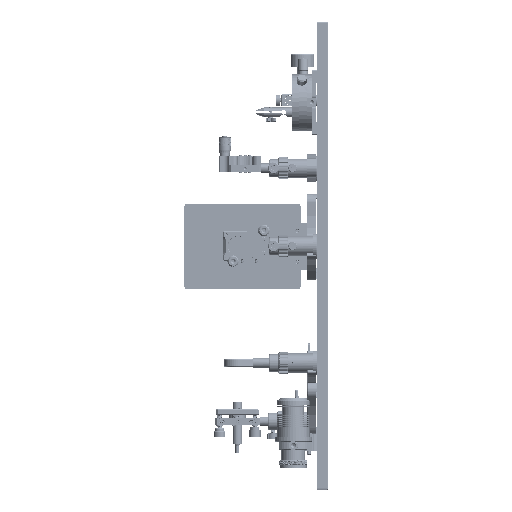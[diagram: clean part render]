
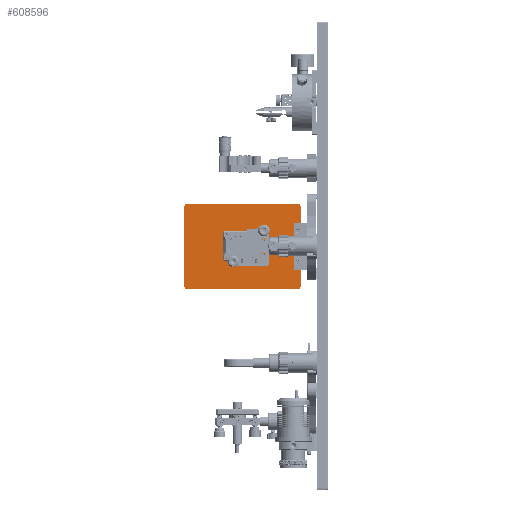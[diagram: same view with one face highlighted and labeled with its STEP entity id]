
A CAD part, top view. The second image highlights one B-rep face of the part: STEP entity #608596.
In plain terms, the highlighted planar face has unit normal (0, 0, 1) as drawn and (0, -1, 0) by its records, which use the part's own axes.
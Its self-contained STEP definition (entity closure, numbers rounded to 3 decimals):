
#608437=CARTESIAN_POINT('',(-51.5,0.,-145.5));
#608438=DIRECTION('',(0.,-1.,0.));
#608439=DIRECTION('',(-1.,0.,0.));
#608440=AXIS2_PLACEMENT_3D('',#608437,#608438,#608439);
#608442=DIRECTION('',(0.,0.,1.));
#608443=VECTOR('',#608442,142.);
#608444=CARTESIAN_POINT('',(-55.,0.,-145.5));
#608445=LINE('',#608444,#608443);
#608446=CARTESIAN_POINT('',(-51.5,0.,-3.5));
#608447=DIRECTION('',(0.,-1.,0.));
#608448=DIRECTION('',(0.,0.,1.));
#608449=AXIS2_PLACEMENT_3D('',#608446,#608447,#608448);
#608451=DIRECTION('',(1.,0.,0.));
#608452=VECTOR('',#608451,103.);
#608453=CARTESIAN_POINT('',(-51.5,0.,0.));
#608454=LINE('',#608453,#608452);
#608455=CARTESIAN_POINT('',(51.5,0.,-3.5));
#608456=DIRECTION('',(0.,-1.,0.));
#608457=DIRECTION('',(1.,0.,0.));
#608458=AXIS2_PLACEMENT_3D('',#608455,#608456,#608457);
#608460=DIRECTION('',(0.,0.,-1.));
#608461=VECTOR('',#608460,142.);
#608462=CARTESIAN_POINT('',(55.,0.,-3.5));
#608463=LINE('',#608462,#608461);
#608464=CARTESIAN_POINT('',(51.5,0.,-145.5));
#608465=DIRECTION('',(0.,-1.,0.));
#608466=DIRECTION('',(0.,0.,-1.));
#608467=AXIS2_PLACEMENT_3D('',#608464,#608465,#608466);
#608469=DIRECTION('',(-1.,0.,0.));
#608470=VECTOR('',#608469,103.);
#608471=CARTESIAN_POINT('',(51.5,0.,-149.));
#608472=LINE('',#608471,#608470);
#608541=CARTESIAN_POINT('',(-55.,0.,-145.5));
#608542=CARTESIAN_POINT('',(-51.5,0.,-149.));
#608543=VERTEX_POINT('',#608541);
#608544=VERTEX_POINT('',#608542);
#608549=CARTESIAN_POINT('',(-51.5,0.,0.));
#608550=CARTESIAN_POINT('',(-55.,0.,-3.5));
#608551=VERTEX_POINT('',#608549);
#608552=VERTEX_POINT('',#608550);
#608557=CARTESIAN_POINT('',(55.,0.,-3.5));
#608558=CARTESIAN_POINT('',(51.5,0.,0.));
#608559=VERTEX_POINT('',#608557);
#608560=VERTEX_POINT('',#608558);
#608565=CARTESIAN_POINT('',(51.5,0.,-149.));
#608566=CARTESIAN_POINT('',(55.,0.,-145.5));
#608567=VERTEX_POINT('',#608565);
#608568=VERTEX_POINT('',#608566);
#608573=CARTESIAN_POINT('',(0.,0.,0.));
#608574=DIRECTION('',(0.,1.,0.));
#608575=DIRECTION('',(1.,0.,0.));
#608576=AXIS2_PLACEMENT_3D('',#608573,#608574,#608575);
#608577=PLANE('',#608576);
#608579=ORIENTED_EDGE('',*,*,#608578,.F.);
#608581=ORIENTED_EDGE('',*,*,#608580,.T.);
#608583=ORIENTED_EDGE('',*,*,#608582,.F.);
#608585=ORIENTED_EDGE('',*,*,#608584,.T.);
#608587=ORIENTED_EDGE('',*,*,#608586,.F.);
#608589=ORIENTED_EDGE('',*,*,#608588,.T.);
#608591=ORIENTED_EDGE('',*,*,#608590,.F.);
#608593=ORIENTED_EDGE('',*,*,#608592,.T.);
#608594=EDGE_LOOP('',(#608579,#608581,#608583,#608585,#608587,#608589,#608591,
#608593));
#608595=FACE_OUTER_BOUND('',#608594,.F.);
#608596=ADVANCED_FACE('',(#608595),#608577,.F.);
#608441=CIRCLE('',#608440,3.5);
#608450=CIRCLE('',#608449,3.5);
#608459=CIRCLE('',#608458,3.5);
#608468=CIRCLE('',#608467,3.5);
#608578=EDGE_CURVE('',#608543,#608544,#608441,.T.);
#608580=EDGE_CURVE('',#608543,#608552,#608445,.T.);
#608582=EDGE_CURVE('',#608551,#608552,#608450,.T.);
#608584=EDGE_CURVE('',#608551,#608560,#608454,.T.);
#608586=EDGE_CURVE('',#608559,#608560,#608459,.T.);
#608588=EDGE_CURVE('',#608559,#608568,#608463,.T.);
#608590=EDGE_CURVE('',#608567,#608568,#608468,.T.);
#608592=EDGE_CURVE('',#608567,#608544,#608472,.T.);
